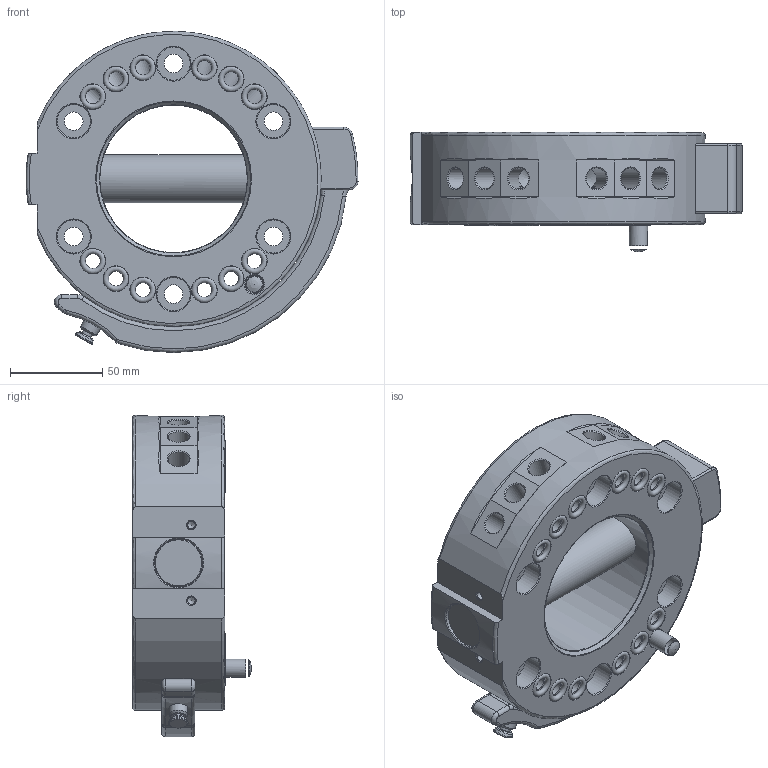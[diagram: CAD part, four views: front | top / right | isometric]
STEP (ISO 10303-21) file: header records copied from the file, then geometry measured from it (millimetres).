
FILE_DESCRIPTION(/* description */ (''),/* implementation_level */ '2;1');
FILE_NAME(/* name */ 'T:\Engineering\Homepage\Homepage 2020\4 3D Step-Daten - Homepage\4 SHW\G-SHW160-2OEP.stp',/* time_stamp */ '2023-06-30T11:01:47+02:00',/* author */ ('ysplieth'),/* organization */ (''),/* preprocessor_version */ 'ST-DEVELOPER v17',/* originating_system */ 'Autodesk Inventor 2018',/* authorisation */ '');
FILE_SCHEMA (('AUTOMOTIVE_DESIGN { 1 0 10303 214 3 1 1 }'));
Length unit declared in the file: millimetre
Products named in the file (1): Bauteil11
Bounding box: 179.99 x 64.5 x 174.18 mm (x, y, z)
Volume: 780232.1 mm3; surface area: 120812.9 mm2
Topology: 12 solids, 14 shells, 320 faces, 871 edges, 596 vertices
Faces by surface type: cylinder 108, plane 84, cone 62, torus 57, bspline 7, sphere 2
Full cylindrical faces by diameter (mm): 4.134 x4, 5.58 x1, 6.2 x1, 6.8 x1, 7 x1, 7.8 x1, 8 x12, 10 x2, 10.1 x1, 10.106 x6, 10.15 x1, 10.6 x1, 11.445 x6, 13.75 x12, 14 x23, 18 x6, 26 x3, 80 x1
Entity records: 12019 total; most frequent: CARTESIAN_POINT 3033, DIRECTION 1957, ORIENTED_EDGE 1716, AXIS2_PLACEMENT_3D 863, EDGE_CURVE 858, VERTEX_POINT 596, CIRCLE 537, EDGE_LOOP 419
